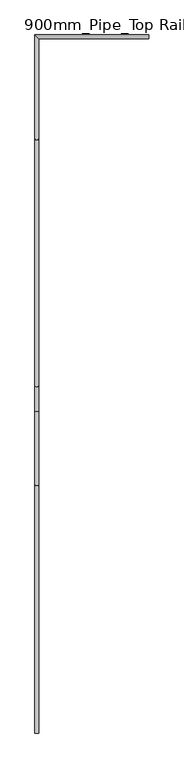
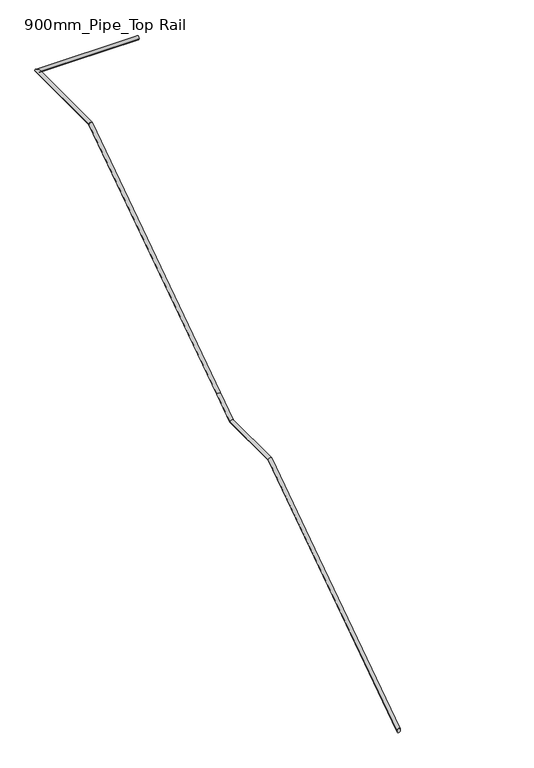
"""IFC4 building model written with IfcOpenShell, lengths in millimetres: railing geometry, 900mm_Pipe_Top Rail."""

from ifc_helpers import new_model, si_unit, frame, origin, place, context, project, spatial, circle_curve, ellipse_curve, source, transform, mapped, element, save
from ifc_brep_helpers import plane_surface, cylinder_surface, advanced_brep


def railing_900mm_pipe_top_rail_34aa1886(model_context):
    return source(origin(), model_context, "Body", "AdvancedBrep", [
        advanced_brep(
        [(7399.4763517, 7902.1459891, 23390.0), (7399.4763519, 7942.1459891, 23390.0), (6249.8763518, 7942.1459948, 23390.0), (6289.8763518, 7902.1459946, 23390.0), (6249.8763518, 6888.7153847, 23390.0), (6289.8763518, 6888.7153847, 23390.0), (6249.8763518, 4393.812716, 21688.9299986), (6289.8763518, 4393.812716, 21688.9299986), (6249.8763518, 4138.7153847, 21515.0), (6289.8763518, 4138.7153847, 21515.0), (6289.8763518, 882.5459718, 19806.2481328), (6249.8763518, 882.5459718, 19806.2481328), (6289.8763518, 3388.715377, 21515.0), (6249.8763518, 3388.715377, 21515.0)],
        [
            (0, 1, circle_curve(frame((7399.4763518, 7922.1459891, 23390.0), z_axis=(1.0, -4.9700005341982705e-09, 0.0), x_axis=(4.9700005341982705e-09, 1.0, 0.0)), 20.0)),
            (1, 0, circle_curve(frame((7399.4763518, 7922.1459891, 23390.0), z_axis=(1.0, -4.9700005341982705e-09, 0.0), x_axis=(4.9700005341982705e-09, 1.0, 0.0)), 20.0)),
            (2, 3, ellipse_curve(frame((6269.8763518, 7922.1459947, 23390.0), z_axis=(0.7071067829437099, 0.7071067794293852, 0.0), x_axis=(-0.707106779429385, 0.7071067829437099, 0.0)), 28.2842713, 20.0)),
            (3, 0),
            (1, 2),
            (3, 2, ellipse_curve(frame((6269.8763518, 7922.1459947, 23390.0), z_axis=(0.7071067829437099, 0.7071067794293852, 0.0), x_axis=(-0.707106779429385, 0.7071067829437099, 0.0)), 28.2842713, 20.0)),
            (4, 5, ellipse_curve(frame((6269.8763518, 6888.7153847, 23390.0), z_axis=(0.0, 0.9555698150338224, 0.294764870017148), x_axis=(0.0, -0.2947648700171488, 0.9555698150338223)), 20.9299202, 20.0)),
            (5, 3),
            (2, 4),
            (5, 4, ellipse_curve(frame((6269.8763518, 6888.7153847, 23390.0), z_axis=(0.0, 0.9555698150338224, 0.294764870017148), x_axis=(0.0, -0.2947648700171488, 0.9555698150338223)), 20.9299202, 20.0)),
            (6, 7, circle_curve(frame((6269.8763518, 4393.812716, 21688.9299986), z_axis=(0.0, 0.8262273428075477, 0.5633368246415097), x_axis=(-1.0, 0.0, 0.0)), 20.0)),
            (7, 5),
            (4, 6),
            (7, 6, circle_curve(frame((6269.8763518, 4393.812716, 21688.9299986), z_axis=(0.0, 0.8262273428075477, 0.5633368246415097), x_axis=(-1.0, 0.0, 0.0)), 20.0)),
            (8, 9, ellipse_curve(frame((6269.8763518, 4138.7153847, 21515.0), z_axis=(0.0, 0.9555698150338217, 0.29476487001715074), x_axis=(0.0, 0.29476487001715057, -0.9555698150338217)), 20.9299202, 20.0)),
            (9, 7),
            (6, 8),
            (9, 8, ellipse_curve(frame((6269.8763518, 4138.7153847, 21515.0), z_axis=(0.0, 0.9555698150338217, 0.29476487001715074), x_axis=(0.0, 0.29476487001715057, -0.9555698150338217)), 20.9299202, 20.0)),
            (10, 11, ellipse_curve(frame((6269.8763518, 882.5459718, 19806.2481328), z_axis=(0.0, -1.0, 0.0), x_axis=(0.0, 0.0, -1.0)), 24.2064126, 20.0)),
            (11, 10, ellipse_curve(frame((6269.8763518, 882.5459718, 19806.2481328), z_axis=(0.0, -1.0, 0.0), x_axis=(0.0, 0.0, -1.0)), 24.2064126, 20.0)),
            (10, 12),
            (12, 13, ellipse_curve(frame((6269.8763518, 3388.715377, 21515.0), z_axis=(0.0, -0.9555698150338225, -0.29476487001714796), x_axis=(0.0, 0.2947648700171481, -0.9555698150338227)), 20.9299202, 20.0)),
            (13, 11),
            (13, 12, ellipse_curve(frame((6269.8763518, 3388.715377, 21515.0), z_axis=(0.0, -0.9555698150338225, -0.29476487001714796), x_axis=(0.0, 0.2947648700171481, -0.9555698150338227)), 20.9299202, 20.0)),
            (12, 9),
            (8, 13),
        ],
        [
            plane_surface(frame((7399.4763518, 7922.1459891, 23410.0), z_axis=(1.0, -4.970000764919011e-09, 0.0), x_axis=(4.970000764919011e-09, 1.0, 0.0))),
            cylinder_surface(frame((6269.8763518, 7922.1459947, 23390.0), z_axis=(-1.0, 4.9700005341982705e-09, 0.0), x_axis=(4.9700005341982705e-09, 1.0, 0.0)), 20.0),
            cylinder_surface(frame((6269.8763518, 6882.5459795, 23390.0), z_axis=(0.0, -1.0, 0.0), x_axis=(-1.0, 0.0, 0.0)), 20.0),
            cylinder_surface(frame((6269.8763518, 4393.812716, 21688.9299986), z_axis=(0.0, -0.8262273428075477, -0.5633368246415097), x_axis=(-1.0, 0.0, 0.0)), 20.0),
            cylinder_surface(frame((6269.8763518, 4143.812716, 21518.4754531), z_axis=(0.0, -0.8262273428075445, -0.5633368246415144), x_axis=(-1.0, 0.0, 0.0)), 20.0),
            plane_surface(frame((6269.8763518, 882.5459718, 19830.4545455), z_axis=(0.0, -1.0, 0.0), x_axis=(0.0, 0.0, 1.0))),
            cylinder_surface(frame((6269.8763518, 893.8127083, 19813.9299986), z_axis=(0.0, -0.8262273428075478, -0.5633368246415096), x_axis=(-1.0, 0.0, 0.0)), 20.0),
            cylinder_surface(frame((6269.8763518, 3382.5459718, 21515.0), z_axis=(0.0, -1.0, 0.0), x_axis=(-1.0, 0.0, 0.0)), 20.0),
        ],
        [
            (0, [[1, 2]]),
            (1, [[3, 4, -2, 5]]),
            (1, [[6, -5, -1, -4]]),
            (2, [[7, 8, -3, 9]]),
            (2, [[10, -9, -6, -8]]),
            (3, [[11, 12, -7, 13]]),
            (3, [[14, -13, -10, -12]]),
            (4, [[15, 16, -11, 17]]),
            (4, [[18, -17, -14, -16]]),
            (5, [[19, 20]]),
            (6, [[-19, 21, 22, 23]]),
            (6, [[-20, -23, 24, -21]]),
            (7, [[-22, 25, -15, 26]]),
            (7, [[-24, -26, -18, -25]]),
        ],
    ),
    ])


if __name__ == "__main__":
    model = new_model("IFC4")
    model_context = context("Model", 3, world=origin())
    ifc_project = project(units=[si_unit("LENGTHUNIT", "METRE", prefix="MILLI")], contexts=[model_context])
    site = spatial("IfcSite", under=ifc_project)
    building = spatial("IfcBuilding", under=site)
    placement = place(None, origin())
    railing_900mm_pipe_top_rail_shape = railing_900mm_pipe_top_rail_34aa1886(model_context)
    element("IfcRailing", 1, ObjectType="900mm_Pipe_Top Rail", at=placement, inside=building, context=model_context, shape_type="MappedRepresentation", body=[
        mapped(railing_900mm_pipe_top_rail_shape, transform((0.0, 0.0, 0.0), x_axis=(1.0, 0.0, 0.0), y_axis=(0.0, 1.0, 0.0), z_axis=(0.0, 0.0, 1.0))),
    ])
    save(model, "model.ifc")
